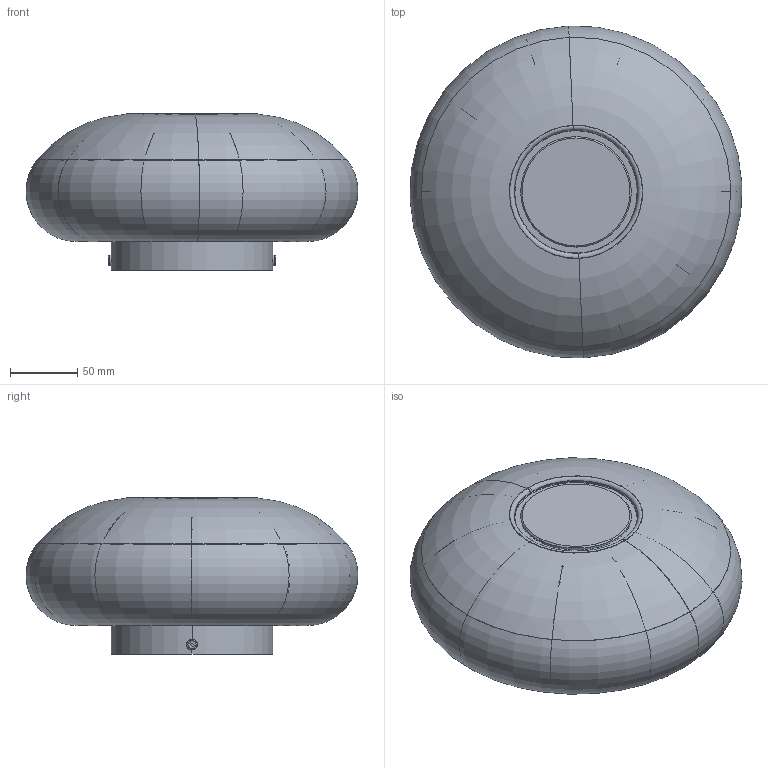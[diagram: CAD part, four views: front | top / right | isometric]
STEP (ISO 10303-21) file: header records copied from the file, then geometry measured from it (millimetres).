
FILE_DESCRIPTION (( 'STEP AP203' ), '1' );
FILE_NAME ('CA.W025.16.STEP', '2026-03-09T13:58:17', ( '' ), ( '' ), 'SwSTEP 2.0', 'SolidWorks 2013', '' );
FILE_SCHEMA (( 'CONFIG_CONTROL_DESIGN' ));
Length unit declared in the file: millimetre
Products named in the file (9): dissipador AL. Ø61x3; Armaço cala mini; Disc suport LED Ø80; AR119_FLORÓ ø120x25_3T Ø4_2xM4 sistema USA; AG019_M4x8; Pantalla teixit Ø245x93; Led Suport Ø80; CA.W025.16; DIN7380 M3x6
Assembly tree (11 placements, depth 3):
  CA.W025.16
    Armaço cala mini
    AR119_FLORÓ ø120x25_3T Ø4_2xM4 sistema USA
    Led Suport Ø80
      Disc suport LED Ø80
      dissipador AL. Ø61x3
    DIN7380 M3x6  x3
    AG019_M4x8  x2
    Pantalla teixit Ø245x93
Bounding box: 246.16 x 246.16 x 115.69 mm (x, y, z)
Volume: 152029.8 mm3; surface area: 356846.8 mm2
Topology: 12 solids, 12 shells, 305 faces, 764 edges, 469 vertices
Faces by surface type: cylinder 98, torus 90, plane 87, cone 26, bspline 4
Entity records: 9891 total; most frequent: CARTESIAN_POINT 2770, DIRECTION 1404, ORIENTED_EDGE 1244, AXIS2_PLACEMENT_3D 627, EDGE_CURVE 622, VERTEX_POINT 379, CIRCLE 372, EDGE_LOOP 275
